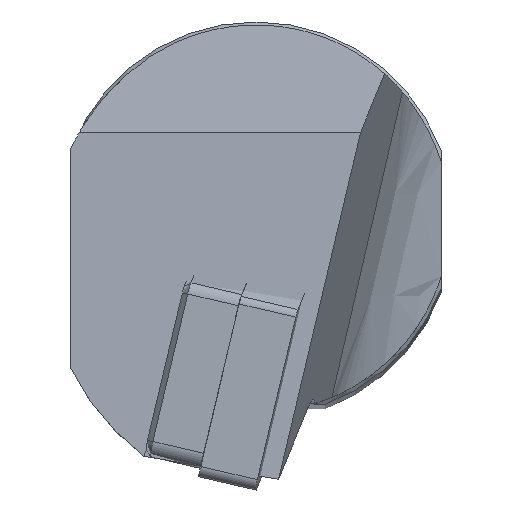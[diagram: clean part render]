
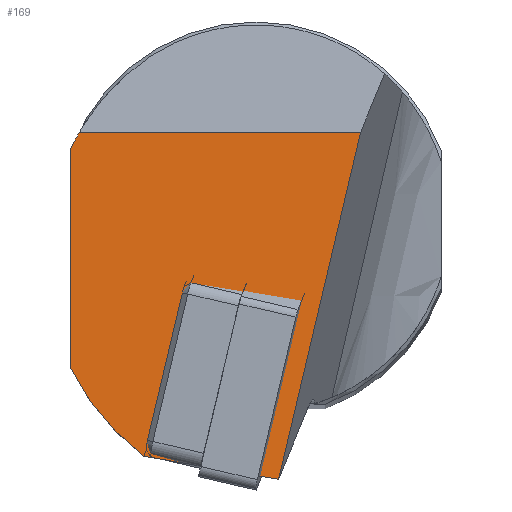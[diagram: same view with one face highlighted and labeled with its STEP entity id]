
A CAD part, top view. The second image highlights one B-rep face of the part: STEP entity #169.
In plain terms, the highlighted planar face has unit normal (0, 0.052, 0.999).
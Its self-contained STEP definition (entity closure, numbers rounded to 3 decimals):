
#169=ADVANCED_FACE('',(#254),#227,.F.);
#227=PLANE('',#1094);
#254=FACE_OUTER_BOUND('',#302,.T.);
#302=EDGE_LOOP('',(#568,#569,#570,#571,#572,#573));
#373=LINE('',#1494,#439);
#374=LINE('',#1531,#440);
#375=LINE('',#1535,#441);
#439=VECTOR('',#1202,1.);
#440=VECTOR('',#1213,1.);
#441=VECTOR('',#1216,1.);
#506=ELLIPSE('',#1092,20.155,20.128);
#507=ELLIPSE('',#1093,20.155,20.128);
#568=ORIENTED_EDGE('',*,*,#936,.T.);
#569=ORIENTED_EDGE('',*,*,#928,.F.);
#570=ORIENTED_EDGE('',*,*,#937,.T.);
#571=ORIENTED_EDGE('',*,*,#938,.F.);
#572=ORIENTED_EDGE('',*,*,#939,.T.);
#573=ORIENTED_EDGE('',*,*,#940,.F.);
#830=VERTEX_POINT('',#1482);
#836=VERTEX_POINT('',#1493);
#840=VERTEX_POINT('',#1508);
#844=VERTEX_POINT('',#1532);
#845=VERTEX_POINT('',#1534);
#846=VERTEX_POINT('',#1536);
#928=EDGE_CURVE('',#836,#830,#373,.T.);
#936=EDGE_CURVE('',#840,#830,#1066,.T.);
#937=EDGE_CURVE('',#836,#844,#374,.T.);
#938=EDGE_CURVE('',#845,#844,#506,.T.);
#939=EDGE_CURVE('',#845,#846,#375,.T.);
#940=EDGE_CURVE('',#840,#846,#507,.T.);
#1066=B_SPLINE_CURVE_WITH_KNOTS('',3,(#1527,#1528,#1529,#1530),
 .UNSPECIFIED.,.F.,.F.,(4,4),(0.,1.),.UNSPECIFIED.);
#1092=AXIS2_PLACEMENT_3D('',#1533,#1214,#1215);
#1093=AXIS2_PLACEMENT_3D('',#1537,#1217,#1218);
#1094=AXIS2_PLACEMENT_3D('',#1538,#1219,#1220);
#1202=DIRECTION('',(-0.23,-0.972,0.05));
#1213=DIRECTION('',(-1.,0.,0.));
#1214=DIRECTION('',(0.,-0.052,-0.999));
#1215=DIRECTION('',(0.,-0.999,0.052));
#1216=DIRECTION('',(0.,-0.999,0.052));
#1217=DIRECTION('',(0.,-0.052,-0.999));
#1218=DIRECTION('',(0.,-0.999,0.052));
#1219=DIRECTION('',(0.,-0.052,-0.999));
#1220=DIRECTION('',(0.,0.999,-0.052));
#1482=CARTESIAN_POINT('',(1.825,-21.135,-0.217));
#1493=CARTESIAN_POINT('',(8.473,7.,-1.673));
#1494=CARTESIAN_POINT('',(11.608,20.266,-2.359));
#1508=CARTESIAN_POINT('',(-9.102,-19.262,-0.314));
#1527=CARTESIAN_POINT('',(-9.102,-19.262,-0.314));
#1528=CARTESIAN_POINT('',(-5.46,-19.886,-0.281));
#1529=CARTESIAN_POINT('',(-1.817,-20.51,-0.249));
#1530=CARTESIAN_POINT('',(1.825,-21.135,-0.217));
#1531=CARTESIAN_POINT('',(-21.5,7.,-1.673));
#1532=CARTESIAN_POINT('',(-14.298,7.,-1.673));
#1533=CARTESIAN_POINT('',(3.047,-3.213,-1.144));
#1534=CARTESIAN_POINT('',(-15.,5.701,-1.605));
#1535=CARTESIAN_POINT('',(-15.,-25.323,0.));
#1536=CARTESIAN_POINT('',(-15.,-12.127,-0.683));
#1537=CARTESIAN_POINT('',(3.047,-3.213,-1.144));
#1538=CARTESIAN_POINT('',(-21.5,-25.323,0.));
